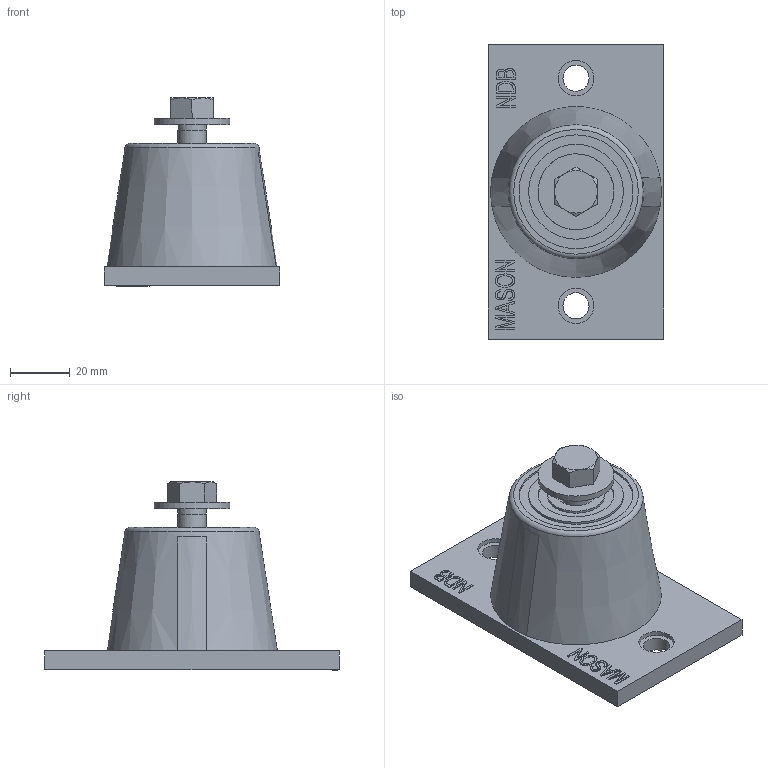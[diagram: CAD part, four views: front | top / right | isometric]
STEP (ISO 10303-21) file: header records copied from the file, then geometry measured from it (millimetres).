
FILE_DESCRIPTION((''),'2;1');
FILE_NAME('C:\2012_Work\Designs\ND\NDB\A-1010-2 NDB MOUNT-YELLOW.stp','2013-09-10T14:50:05',('KShiels'),(''),'Autodesk Inventor 2012','Autodesk Inventor 2012','');
FILE_SCHEMA(('AUTOMOTIVE_DESIGN { 1 0 10303 214 1 1 1 1 }'));
Length unit declared in the file: inch
Products named in the file (6): A-1010-2 NDB MOUNT-YELLOW; A-1010-2 NDB RUBBER-YELLOW; A-1014-3 NDB TOP PLATE; ANSI_ASME B18.2.1 - 3_8-16 UNC - 1(2)_NDB; ANSI B18.22.1 - 3_8 - wide - Type A_NDB; A-1013-4 NDB BASE PLATE
Assembly tree (5 placements, depth 2):
  A-1010-2 NDB MOUNT-YELLOW
    A-1010-2 NDB RUBBER-YELLOW
    A-1014-3 NDB TOP PLATE
    ANSI_ASME B18.2.1 - 3_8-16 UNC - 1(2)_NDB
    ANSI B18.22.1 - 3_8 - wide - Type A_NDB
    A-1013-4 NDB BASE PLATE
Bounding box: 58.74 x 98.42 x 63.02 mm (x, y, z)
Volume: 118170 mm3; surface area: 40568.4 mm2
Topology: 5 solids, 5 shells, 380 faces, 973 edges, 646 vertices
Faces by surface type: plane 287, bspline 57, cylinder 21, cone 12, torus 3
Full cylindrical faces by diameter (mm): 7.798 x1, 8.731 x2, 9.525 x1, 9.922 x2, 11.125 x1, 11.906 x2, 12.7 x2, 14.275 x1, 19.05 x1, 25.4 x3, 30.163 x1, 31.75 x1, 38.1 x1, 41.275 x2
Entity records: 11816 total; most frequent: CARTESIAN_POINT 2860, ORIENTED_EDGE 1870, DIRECTION 1561, EDGE_CURVE 935, VECTOR 717, LINE 717, VERTEX_POINT 636, EDGE_LOOP 467
